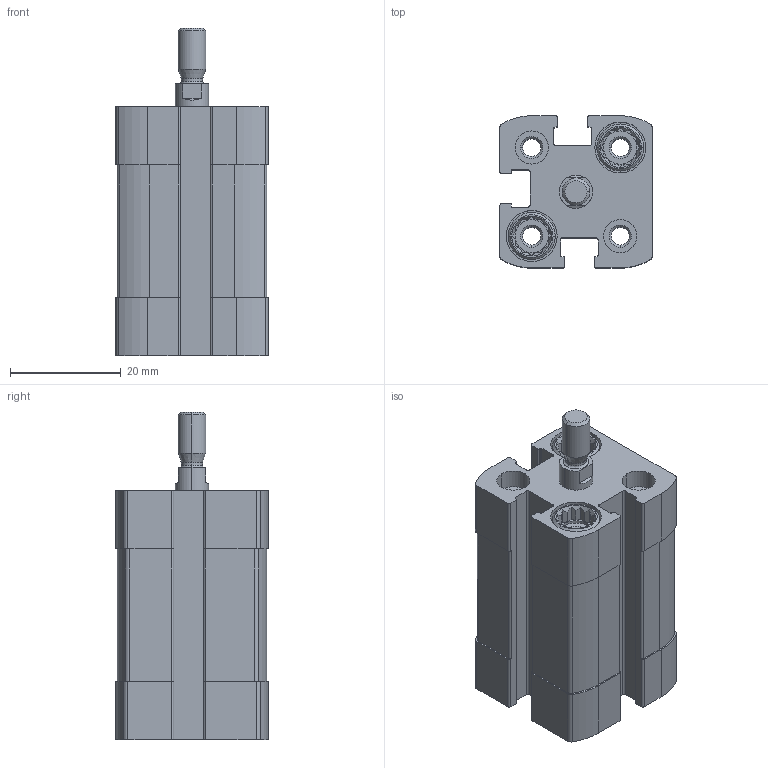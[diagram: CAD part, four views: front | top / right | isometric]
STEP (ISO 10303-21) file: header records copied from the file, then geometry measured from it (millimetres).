
FILE_DESCRIPTION (( 'STEP AP203' ), '1' );
FILE_NAME ('CCN12-10M.STEP', '2017-03-23T18:13:04', ( '' ), ( '' ), 'SwSTEP 2.0', 'SolidWorks 2016', '' );
FILE_SCHEMA (( 'CONFIG_CONTROL_DESIGN' ));
Length unit declared in the file: millimetre
Products named in the file (3): CCN12-10M---(Z); CCN12-10M_(KS); CCN12-10M
Assembly tree (2 placements, depth 2):
  CCN12-10M
    CCN12-10M---(Z)
    CCN12-10M_(KS)
Bounding box: 27.5 x 27.5 x 59.2 mm (x, y, z)
Volume: 24766.4 mm3; surface area: 13363.3 mm2
Topology: 2 solids, 2 shells, 365 faces, 938 edges, 612 vertices
Faces by surface type: plane 187, cylinder 134, cone 40, bspline 4
Entity records: 11573 total; most frequent: CARTESIAN_POINT 2280, DIRECTION 1890, ORIENTED_EDGE 1876, EDGE_CURVE 938, AXIS2_PLACEMENT_3D 686, VERTEX_POINT 612, VECTOR 518, LINE 518
